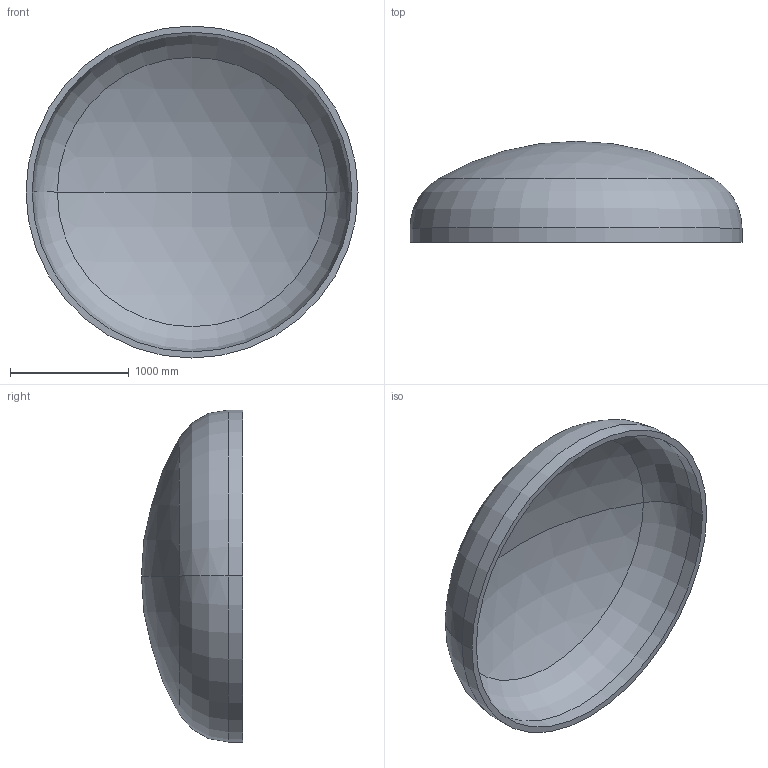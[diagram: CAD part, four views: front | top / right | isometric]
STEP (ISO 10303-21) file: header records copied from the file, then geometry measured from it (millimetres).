
FILE_DESCRIPTION (( 'STEP AP203' ), '1' );
FILE_NAME ('DIN 28013 Korbbogenform_-_Boden DIN 28013 - 2800 x 120 - I - s=52.step', '2016-07-01T17:04:14', ( '' ), ( '' ), 'SwSTEP 2.0', 'SolidWorks 2013', '' );
FILE_SCHEMA (( 'CONFIG_CONTROL_DESIGN' ));
Length unit declared in the file: millimetre
Products named in the file (1): DIN 28013 Korbbogenform_-_Boden DIN 28013 - 2800 x 120 - I - s=52
Bounding box: 2800 x 852.07 x 2800 mm (x, y, z)
Volume: 486370740.3 mm3; surface area: 19161144.8 mm2
Topology: 1 solids, 1 shells, 13 faces, 24 edges, 14 vertices
Faces by surface type: torus 4, cylinder 4, sphere 4, plane 1
Entity records: 407 total; most frequent: DIRECTION 72, CARTESIAN_POINT 52, ORIENTED_EDGE 48, AXIS2_PLACEMENT_3D 34, EDGE_CURVE 24, CIRCLE 20, VERTEX_POINT 14, EDGE_LOOP 14
